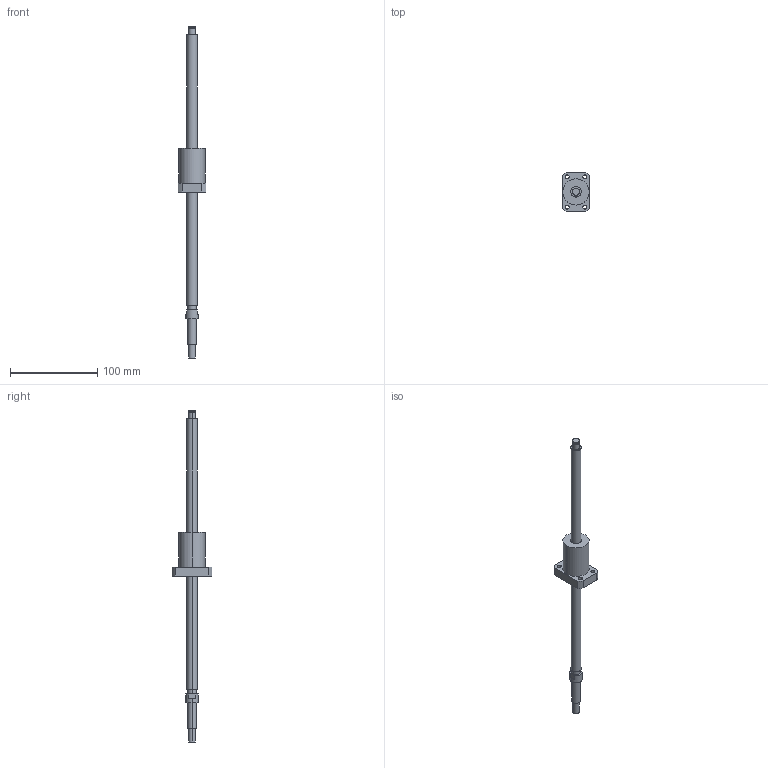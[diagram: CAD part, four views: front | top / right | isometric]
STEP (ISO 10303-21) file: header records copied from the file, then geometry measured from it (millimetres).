
FILE_DESCRIPTION((''),'2;1');
FILE_NAME('R12-10B1-FSW-310-380','2008-03-28T',('mahdi'),(''),'PRO/ENGINEER BY PARAMETRIC TECHNOLOGY CORPORATION, 2005070','PRO/ENGINEER BY PARAMETRIC TECHNOLOGY CORPORATION, 2005070','');
FILE_SCHEMA(('CONFIG_CONTROL_DESIGN'));
Length unit declared in the file: millimetre
Products named in the file (1): R12-10B1-FSW-310-380
Bounding box: 32 x 45 x 380 mm (x, y, z)
Volume: 76041.3 mm3; surface area: 20783.4 mm2
Topology: 1 solids, 1 shells, 64 faces, 144 edges, 96 vertices
Faces by surface type: cylinder 40, plane 24
Entity records: 1886 total; most frequent: DIRECTION 356, CARTESIAN_POINT 304, ORIENTED_EDGE 288, AXIS2_PLACEMENT_3D 148, EDGE_CURVE 144, VERTEX_POINT 96, EDGE_LOOP 86, CIRCLE 84
